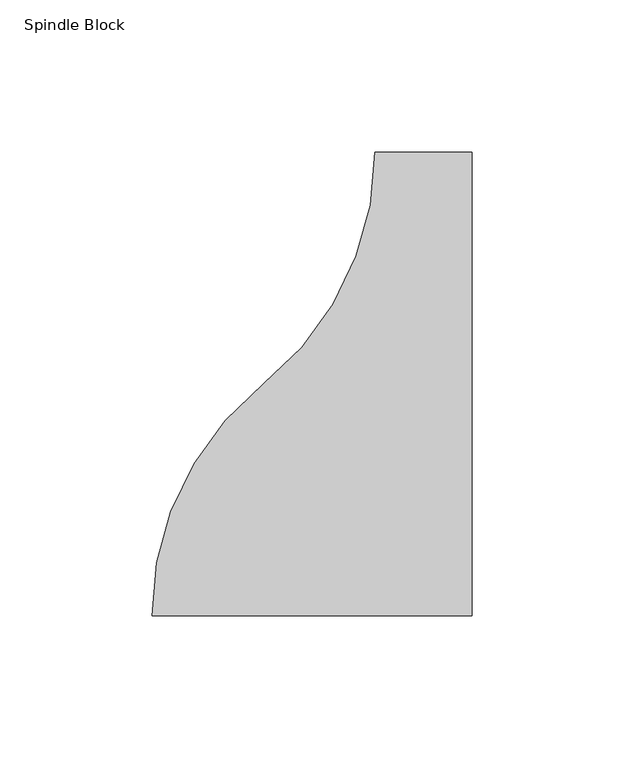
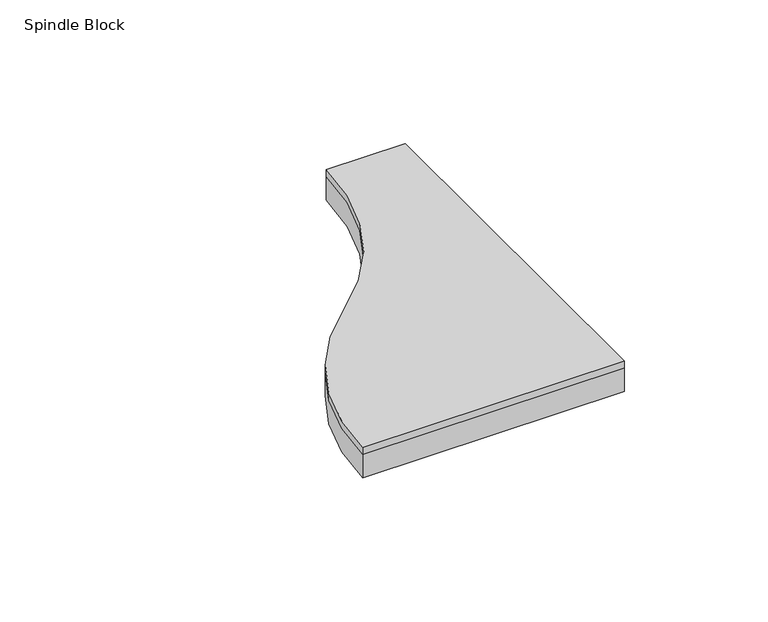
"""IFC4 building model written with IfcOpenShell, lengths in millimetres: proxy geometry, FilzFelt_Spindle_Block : Spindle Block."""

from ifc_helpers import new_model, si_unit, point, frame, frame_2d, origin, origin_with_axes, place, context, project, spatial, polyline, circle_curve, trimmed, segment, composite_curve, outline, extrude, source, transform, mapped, element, save


def spindle_block_cb91bb9c(model_context):
    return source(origin(), model_context, "Body", "SweptSolid", [
        extrude(outline(composite_curve([segment(trimmed(circle_curve(frame_2d((8.2776003, 0.0)), 97.5776355), [point((-89.3000352, 0.0))], [point((-52.6102676, 76.25))], False, "CARTESIAN"), True, "CONTINUOUS"), segment(trimmed(circle_curve(frame_2d((-113.4981354, 152.5)), 97.5776355), [point((-52.6102676, 76.25))], [point((-15.9204999, 152.5))], True, "CARTESIAN"), True, "CONTINUOUS"), segment(polyline([(-15.9204999, 152.5), (15.9204999, 152.5), (15.9204999, 0.0), (-89.3000352, 0.0)]), True, "CONTINUOUS")], self_intersect=False)), frame((0.0, 0.0, 10.0210937), z_axis=(0.0, 0.0, 1.0), x_axis=(1.0, 0.0, 0.0)), (0.0, 0.0, 1.0), 2.9765625),
        extrude(outline(composite_curve([segment(trimmed(circle_curve(frame_2d((8.2776003, 0.0)), 97.5776355), [point((-89.3000352, 0.0))], [point((-52.6102676, 76.25))], False, "CARTESIAN"), True, "CONTINUOUS"), segment(trimmed(circle_curve(frame_2d((-113.4981354, 152.5)), 97.5776355), [point((-52.6102676, 76.25))], [point((-15.9204999, 152.5))], True, "CARTESIAN"), True, "CONTINUOUS"), segment(polyline([(-15.9204999, 152.5), (15.9204999, 152.5), (15.9204999, 0.0), (-89.3000352, 0.0)]), True, "CONTINUOUS")], self_intersect=False)), origin_with_axes(), (0.0, 0.0, 1.0), 10.0210938),
    ])


if __name__ == "__main__":
    model = new_model("IFC4")
    model_context = context("Model", 3, world=origin())
    ifc_project = project(units=[si_unit("LENGTHUNIT", "METRE", prefix="MILLI")], contexts=[model_context])
    site = spatial("IfcSite", under=ifc_project)
    building = spatial("IfcBuilding", under=site)
    placement = place(None, origin())
    spindle_block_shape = spindle_block_cb91bb9c(model_context)
    element("IfcBuildingElementProxy", 1, Name="FilzFelt_Spindle_Block : Spindle Block", ObjectType="FilzFelt_Spindle_Block : Spindle Block", at=placement, inside=building, context=model_context, shape_type="MappedRepresentation", body=[
        mapped(spindle_block_shape, transform((0.0, 0.0, 0.0), x_axis=(1.0, 0.0, 0.0), y_axis=(0.0, 1.0, 0.0), z_axis=(0.0, 0.0, 1.0))),
    ])
    save(model, "model.ifc")
